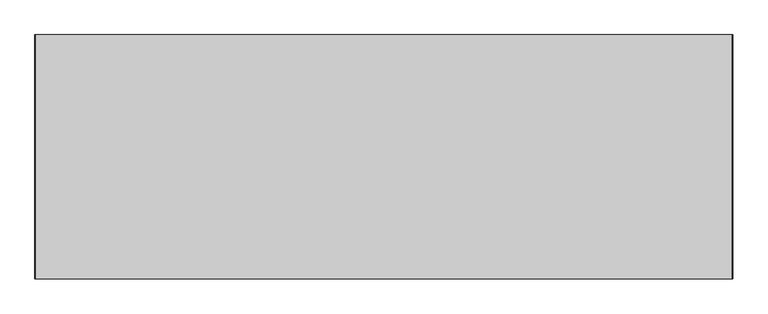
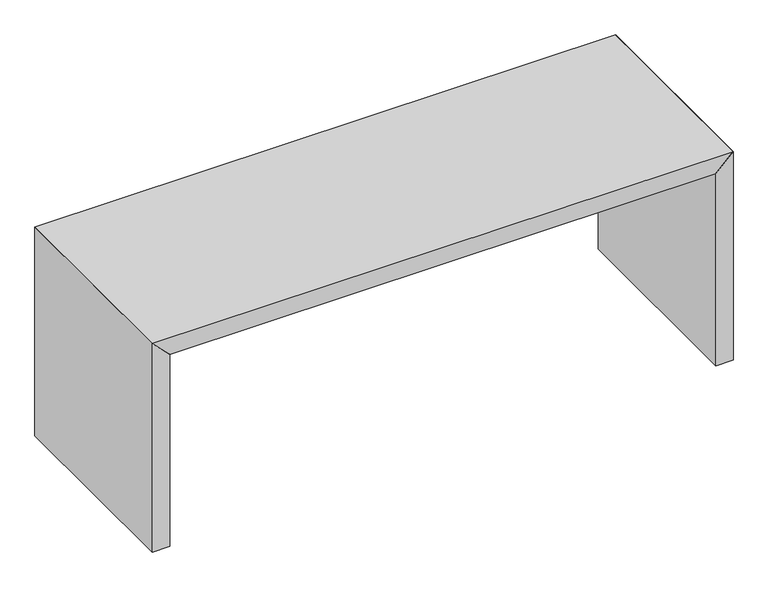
"""IFC4 building model written with IfcOpenShell, lengths in millimetres: furniture geometry, Audo Copenhagen - Plinth - Bridge : Audo Copenhagen - Plinth - Bridge."""

from ifc_helpers import new_model, si_unit, frame, origin, place, context, project, spatial, polyline, circle_curve, outline, extrude, source, transform, mapped, element, save
from ifc_brep_helpers import plane_surface, revolved_surface, advanced_brep


def furniture_1821b483(model_context):
    return source(origin(), model_context, "Body", "SolidModel", [
        extrude(outline(polyline([(470.0, 15.0), (470.0, -15.0), (-470.0, -15.0), (-470.0, 15.0), (470.0, 15.0)])), frame((0.0, 0.0, 296.55), z_axis=(0.0, 0.0, 1.0), x_axis=(1.0, 0.0, 0.0)), (0.0, 0.0, 1.0), 60.0),
        advanced_brep(
        [(493.0, -115.0093356, 0.0), (477.0, -115.0093356, 0.0), (495.6244548, -115.0093356, 6.55), (474.3755452, -115.0093356, 6.55)],
        [
            (0, 1, circle_curve(frame((485.0, -115.0093356, 0.0), z_axis=(0.0, 0.0, -1.0), x_axis=(1.0, 0.0, 0.0)), 8.0)),
            (1, 0, circle_curve(frame((485.0, -115.0093356, 0.0), z_axis=(0.0, 0.0, -1.0), x_axis=(-1.0, 0.0, 0.0)), 8.0)),
            (2, 3, circle_curve(frame((485.0, -115.0093356, 6.55), z_axis=(0.0, 0.0, 1.0), x_axis=(-1.0, 0.0, 0.0)), 10.6244548)),
            (3, 2, circle_curve(frame((485.0, -115.0093356, 6.55), z_axis=(0.0, 0.0, 1.0), x_axis=(1.0, 0.0, 0.0)), 10.6244548)),
            (3, 1),
            (0, 2),
        ],
        [
            plane_surface(frame((485.0, -115.0093356, 0.0), z_axis=(0.0, 0.0, -1.0), x_axis=(0.0, 1.0, 0.0))),
            plane_surface(frame((485.0, -115.0093356, 6.55), z_axis=(0.0, 0.0, 1.0), x_axis=(0.0, 1.0, 0.0))),
            revolved_surface(polyline([(493.0000000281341, -115.0093356, 0.0), (495.6244548, -115.0093356, 6.550000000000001)]), (485.0, -115.0093356, -19.9660519), (0.0, 0.0, 1.0)),
            revolved_surface(polyline([(476.9999999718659, -115.0093356, 0.0), (474.3755452, -115.0093356, 6.550000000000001)]), (485.0, -115.0093356, -19.9660519), (0.0, 0.0, 1.0)),
        ],
        [
            (0, [[1, 2]]),
            (1, [[3, 4]]),
            (2, [[-4, 5, -1, 6]]),
            (3, [[-3, -6, -2, -5]]),
        ],
    ),
        advanced_brep(
        [(493.0, 115.0093356, 0.0), (477.0, 115.0093356, 0.0), (495.6244548, 115.0093356, 6.55), (474.3755452, 115.0093356, 6.55)],
        [
            (0, 1, circle_curve(frame((485.0, 115.0093356, 0.0), z_axis=(0.0, 0.0, -1.0), x_axis=(1.0, 0.0, 0.0)), 8.0)),
            (1, 0, circle_curve(frame((485.0, 115.0093356, 0.0), z_axis=(0.0, 0.0, -1.0), x_axis=(-1.0, 0.0, 0.0)), 8.0)),
            (2, 3, circle_curve(frame((485.0, 115.0093356, 6.55), z_axis=(0.0, 0.0, 1.0), x_axis=(-1.0, 0.0, 0.0)), 10.6244548)),
            (3, 2, circle_curve(frame((485.0, 115.0093356, 6.55), z_axis=(0.0, 0.0, 1.0), x_axis=(1.0, 0.0, 0.0)), 10.6244548)),
            (2, 0),
            (1, 3),
        ],
        [
            plane_surface(frame((485.0, 115.0093356, 0.0), z_axis=(0.0, 0.0, -1.0), x_axis=(0.0, 1.0, 0.0))),
            plane_surface(frame((485.0, 115.0093356, 6.55), z_axis=(0.0, 0.0, 1.0), x_axis=(0.0, 1.0, 0.0))),
            revolved_surface(polyline([(476.9999999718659, 115.0093356, 0.0), (474.3755452, 115.0093356, 6.550000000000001)]), (485.0, 115.0093356, -19.9660519), (0.0, 0.0, 1.0)),
            revolved_surface(polyline([(493.0000000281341, 115.0093356, 0.0), (495.6244548, 115.0093356, 6.550000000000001)]), (485.0, 115.0093356, -19.9660519), (0.0, 0.0, 1.0)),
        ],
        [
            (0, [[1, 2]]),
            (1, [[3, 4]]),
            (2, [[-3, 5, -2, 6]]),
            (3, [[-4, -6, -1, -5]]),
        ],
    ),
        advanced_brep(
        [(-493.0, 115.0093356, 0.0), (-477.0, 115.0093356, 0.0), (-495.6244548, 115.0093356, 6.55), (-474.3755452, 115.0093356, 6.55)],
        [
            (0, 1, circle_curve(frame((-485.0, 115.0093356, 0.0), z_axis=(0.0, 0.0, -1.0), x_axis=(-1.0, 0.0, 0.0)), 8.0)),
            (1, 0, circle_curve(frame((-485.0, 115.0093356, 0.0), z_axis=(0.0, 0.0, -1.0), x_axis=(1.0, 0.0, 0.0)), 8.0)),
            (2, 3, circle_curve(frame((-485.0, 115.0093356, 6.55), z_axis=(0.0, 0.0, 1.0), x_axis=(1.0, 0.0, 0.0)), 10.6244548)),
            (3, 2, circle_curve(frame((-485.0, 115.0093356, 6.55), z_axis=(0.0, 0.0, 1.0), x_axis=(-1.0, 0.0, 0.0)), 10.6244548)),
            (3, 1),
            (0, 2),
        ],
        [
            plane_surface(frame((-485.0, 115.0093356, 0.0), z_axis=(0.0, 0.0, -1.0), x_axis=(0.0, -1.0, 0.0))),
            plane_surface(frame((-485.0, 115.0093356, 6.55), z_axis=(0.0, 0.0, 1.0), x_axis=(0.0, -1.0, 0.0))),
            revolved_surface(polyline([(-493.0000000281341, 115.0093356, 0.0), (-495.6244548, 115.0093356, 6.550000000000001)]), (-485.0, 115.0093356, -19.9660519), (0.0, 0.0, 1.0)),
            revolved_surface(polyline([(-476.9999999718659, 115.0093356, 0.0), (-474.3755452, 115.0093356, 6.550000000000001)]), (-485.0, 115.0093356, -19.9660519), (0.0, 0.0, 1.0)),
        ],
        [
            (0, [[1, 2]]),
            (1, [[3, 4]]),
            (2, [[-4, 5, -1, 6]]),
            (3, [[-3, -6, -2, -5]]),
        ],
    ),
        advanced_brep(
        [(-493.0, -115.0093356, 0.0), (-477.0, -115.0093356, 0.0), (-495.6244548, -115.0093356, 6.55), (-474.3755452, -115.0093356, 6.55)],
        [
            (0, 1, circle_curve(frame((-485.0, -115.0093356, 0.0), z_axis=(0.0, 0.0, -1.0), x_axis=(-1.0, 0.0, 0.0)), 8.0)),
            (1, 0, circle_curve(frame((-485.0, -115.0093356, 0.0), z_axis=(0.0, 0.0, -1.0), x_axis=(1.0, 0.0, 0.0)), 8.0)),
            (2, 3, circle_curve(frame((-485.0, -115.0093356, 6.55), z_axis=(0.0, 0.0, 1.0), x_axis=(1.0, 0.0, 0.0)), 10.6244548)),
            (3, 2, circle_curve(frame((-485.0, -115.0093356, 6.55), z_axis=(0.0, 0.0, 1.0), x_axis=(-1.0, 0.0, 0.0)), 10.6244548)),
            (2, 0),
            (1, 3),
        ],
        [
            plane_surface(frame((-485.0, -115.0093356, 0.0), z_axis=(0.0, 0.0, -1.0), x_axis=(0.0, -1.0, 0.0))),
            plane_surface(frame((-485.0, -115.0093356, 6.55), z_axis=(0.0, 0.0, 1.0), x_axis=(0.0, -1.0, 0.0))),
            revolved_surface(polyline([(-476.9999999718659, -115.0093356, 0.0), (-474.3755452, -115.0093356, 6.550000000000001)]), (-485.0, -115.0093356, -19.9660519), (0.0, 0.0, 1.0)),
            revolved_surface(polyline([(-493.0000000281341, -115.0093356, 0.0), (-495.6244548, -115.0093356, 6.550000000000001)]), (-485.0, -115.0093356, -19.9660519), (0.0, 0.0, 1.0)),
        ],
        [
            (0, [[1, 2]]),
            (1, [[3, 4]]),
            (2, [[-3, 5, -2, 6]]),
            (3, [[-4, -6, -1, -5]]),
        ],
    ),
        extrude(outline(polyline([(386.55, 500.0), (356.55, 470.0), (6.55, 470.0), (6.55, 500.0), (386.55, 500.0)])), frame((0.0, -175.0, 0.0), z_axis=(0.0, 1.0, 0.0), x_axis=(0.0, 0.0, 1.0)), (0.0, 0.0, 1.0), 350.0),
        extrude(outline(polyline([(386.55, -500.0), (6.55, -500.0), (6.55, -470.0), (356.55, -470.0), (386.55, -500.0)])), frame((0.0, -175.0, 0.0), z_axis=(0.0, 1.0, 0.0), x_axis=(0.0, 0.0, 1.0)), (0.0, 0.0, 1.0), 350.0),
        extrude(outline(polyline([(386.55, 500.0), (386.55, -500.0), (356.55, -470.0), (356.55, 470.0), (386.55, 500.0)])), frame((0.0, -175.0, 0.0), z_axis=(0.0, 1.0, 0.0), x_axis=(0.0, 0.0, 1.0)), (0.0, 0.0, 1.0), 350.0),
    ])


if __name__ == "__main__":
    model = new_model("IFC4")
    model_context = context("Model", 3, world=origin())
    ifc_project = project(units=[si_unit("LENGTHUNIT", "METRE", prefix="MILLI")], contexts=[model_context])
    site = spatial("IfcSite", under=ifc_project)
    building = spatial("IfcBuilding", under=site)
    placement = place(None, origin())
    furniture_shape = furniture_1821b483(model_context)
    element("IfcFurniture", 1, ObjectType="Audo Copenhagen - Plinth - Bridge : Audo Copenhagen - Plinth - Bridge", at=placement, inside=building, context=model_context, shape_type="MappedRepresentation", body=[
        mapped(furniture_shape, transform((0.0, 0.0, 0.0), x_axis=(1.0, 0.0, 0.0), y_axis=(0.0, 1.0, 0.0), z_axis=(0.0, 0.0, 1.0))),
    ])
    save(model, "model.ifc")
